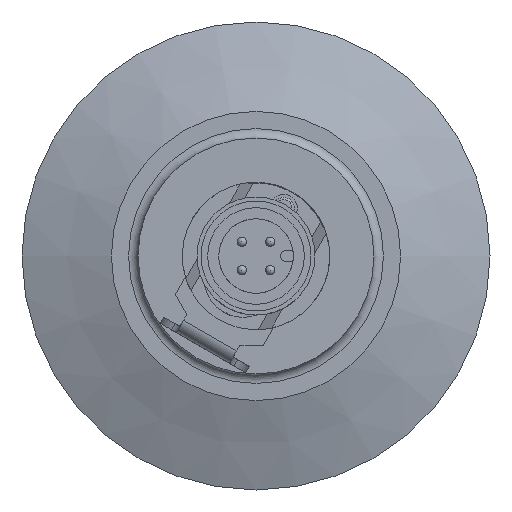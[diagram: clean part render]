
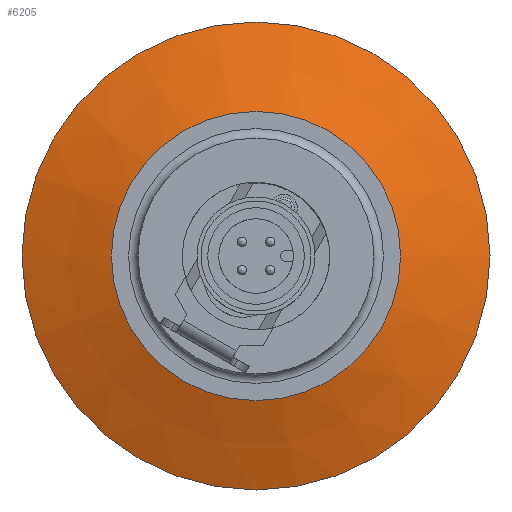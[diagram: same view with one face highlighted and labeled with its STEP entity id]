
A CAD part, left-side view. The second image highlights one B-rep face of the part: STEP entity #6205.
In plain terms, the highlighted conical face has half-angle 70 degrees and reference radius 20.382 mm.
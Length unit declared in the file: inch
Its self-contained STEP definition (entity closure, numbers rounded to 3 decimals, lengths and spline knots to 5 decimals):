
#428=CONICAL_SURFACE($,#6650,0.80242,70.);
#1548=FACE_BOUND($,#2148,.T.);
#1742=FACE_OUTER_BOUND($,#2147,.T.);
#2147=EDGE_LOOP($,(#4390));
#2148=EDGE_LOOP($,(#4391));
#2551=CIRCLE($,#6633,0.61285);
#2560=CIRCLE($,#6651,0.992);
#2763=VERTEX_POINT($,#9422);
#2772=VERTEX_POINT($,#9449);
#3394=EDGE_CURVE($,#2763,#2763,#2551,.T.);
#3403=EDGE_CURVE($,#2772,#2772,#2560,.T.);
#4390=ORIENTED_EDGE($,*,*,#3394,.T.);
#4391=ORIENTED_EDGE($,*,*,#3403,.F.);
#6205=ADVANCED_FACE($,(#1742,#1548),#428,.T.);
#6633=AXIS2_PLACEMENT_3D($,#9423,#7262,#7263);
#6650=AXIS2_PLACEMENT_3D($,#9448,#7296,#7297);
#6651=AXIS2_PLACEMENT_3D($,#9450,#7298,#7299);
#7262=DIRECTION('center_axis',(1.,0.,0.));
#7263=DIRECTION('ref_axis',(0.,0.,
-1.));
#7296=DIRECTION('center_axis',(1.,0.,0.));
#7297=DIRECTION('ref_axis',(0.,1.,0.));
#7298=DIRECTION('center_axis',(1.,0.,0.));
#7299=DIRECTION('ref_axis',(0.,0.,
-1.));
#9422=CARTESIAN_POINT('',(2.25692,-1.67965,-1.59107));
#9423=CARTESIAN_POINT('Origin',(2.25692,-2.2925,-1.59107));
#9448=CARTESIAN_POINT('Origin',(2.32592,-2.2925,-1.59107));
#9449=CARTESIAN_POINT('',(2.39492,-1.3005,-1.59107));
#9450=CARTESIAN_POINT('Origin',(2.39492,-2.2925,-1.59107));
